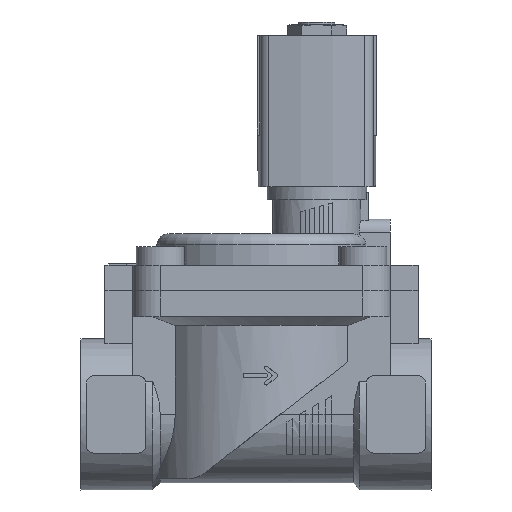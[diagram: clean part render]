
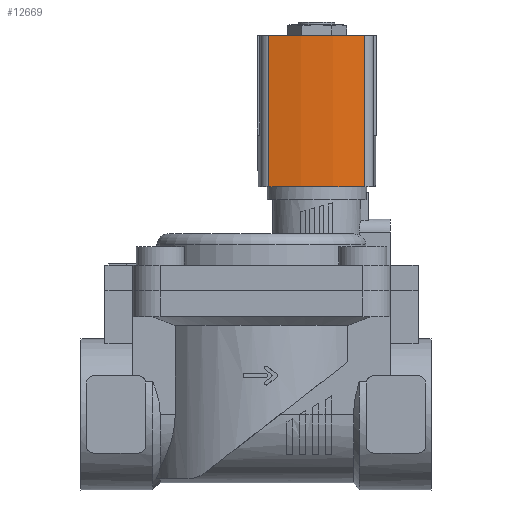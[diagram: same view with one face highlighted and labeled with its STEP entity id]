
A CAD part, top view. The second image highlights one B-rep face of the part: STEP entity #12669.
In plain terms, the highlighted cylindrical face has radius 60 mm (diameter 120 mm), a partial arc.
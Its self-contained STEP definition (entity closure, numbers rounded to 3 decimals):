
#223=CYLINDRICAL_SURFACE('',#13509,60.);
#1248=LINE('',#19385,#2358);
#1249=LINE('',#19389,#2359);
#2358=VECTOR('',#16032,1000.);
#2359=VECTOR('',#16037,1000.);
#4747=ORIENTED_EDGE('',*,*,#6776,.T.);
#4748=ORIENTED_EDGE('',*,*,#6777,.F.);
#4749=ORIENTED_EDGE('',*,*,#6062,.F.);
#4750=ORIENTED_EDGE('',*,*,#6775,.T.);
#6062=EDGE_CURVE('',#7332,#7333,#8055,.T.);
#6775=EDGE_CURVE('',#7332,#7838,#1248,.T.);
#6776=EDGE_CURVE('',#7838,#7839,#8149,.T.);
#6777=EDGE_CURVE('',#7333,#7839,#1249,.T.);
#7332=VERTEX_POINT('',#18039);
#7333=VERTEX_POINT('',#18041);
#7838=VERTEX_POINT('',#19384);
#7839=VERTEX_POINT('',#19388);
#8055=CIRCLE('',#13289,60.);
#8149=CIRCLE('',#13510,60.);
#8562=EDGE_LOOP('',(#4747,#4748,#4749,#4750));
#9130=FACE_BOUND('',#8562,.T.);
#12669=ADVANCED_FACE('',(#9130),#223,.T.);
#13289=AXIS2_PLACEMENT_3D('',#18040,#14973,#14974);
#13509=AXIS2_PLACEMENT_3D('',#19386,#16033,#16034);
#13510=AXIS2_PLACEMENT_3D('',#19387,#16035,#16036);
#14973=DIRECTION('',(0.,1.,0.));
#14974=DIRECTION('',(1.,0.,0.));
#16032=DIRECTION('',(0.,-1.,0.));
#16033=DIRECTION('',(0.,-1.,0.));
#16034=DIRECTION('',(0.,0.,-1.));
#16035=DIRECTION('',(0.,1.,0.));
#16036=DIRECTION('',(1.,0.,0.));
#16037=DIRECTION('',(0.,-1.,0.));
#18039=CARTESIAN_POINT('',(19.078,15.,12.986));
#18040=CARTESIAN_POINT('',(-39.5,15.,0.));
#18041=CARTESIAN_POINT('',(19.078,15.,-12.986));
#19384=CARTESIAN_POINT('',(19.078,-26.,12.986));
#19385=CARTESIAN_POINT('',(19.078,15.,12.986));
#19386=CARTESIAN_POINT('',(-39.5,15.,0.));
#19387=CARTESIAN_POINT('',(-39.5,-26.,0.));
#19388=CARTESIAN_POINT('',(19.078,-26.,-12.986));
#19389=CARTESIAN_POINT('',(19.078,15.,-12.986));
